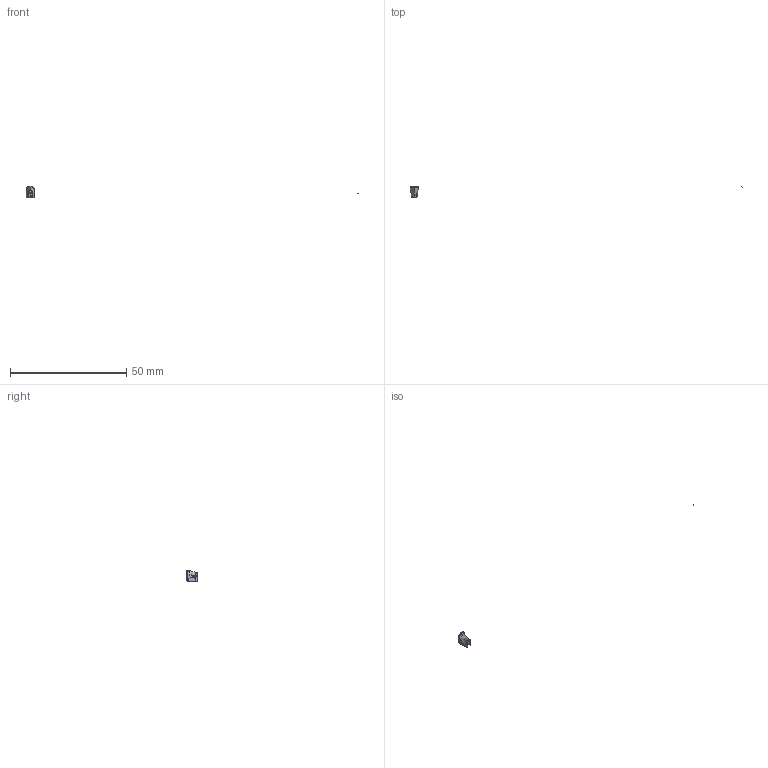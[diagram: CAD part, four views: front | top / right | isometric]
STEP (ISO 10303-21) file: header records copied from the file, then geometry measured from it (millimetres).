
FILE_DESCRIPTION(/* description */ (''),/* implementation_level */ '2;1');
FILE_NAME(/* name */ 'CMVCTPE00000',/* time_stamp */ '2018-12-17T11:56:41+01:00',/* author */ (''),/* organization */ (''),/* preprocessor_version */ 'ST-DEVELOPER v15',/* originating_system */ '',/* authorisation */ '');
FILE_SCHEMA (('AUTOMOTIVE_DESIGN'));
Length unit declared in the file: centimetre
Products named in the file (1): Document
Bounding box: 142.58 x 4.54 x 5.15 mm (x, y, z)
Topology: 0 solids, 21 shells, 733 faces, 2298 edges, 1257 vertices
Faces by surface type: bspline 629, plane 104
Entity records: 72744 total; most frequent: CARTESIAN_POINT 61903, ORIENTED_EDGE 3934, EDGE_CURVE 2320, VERTEX_POINT 1251, B_SPLINE_CURVE_WITH_KNOTS 797, EDGE_LOOP 728, ADVANCED_FACE 704, FACE_OUTER_BOUND 704
